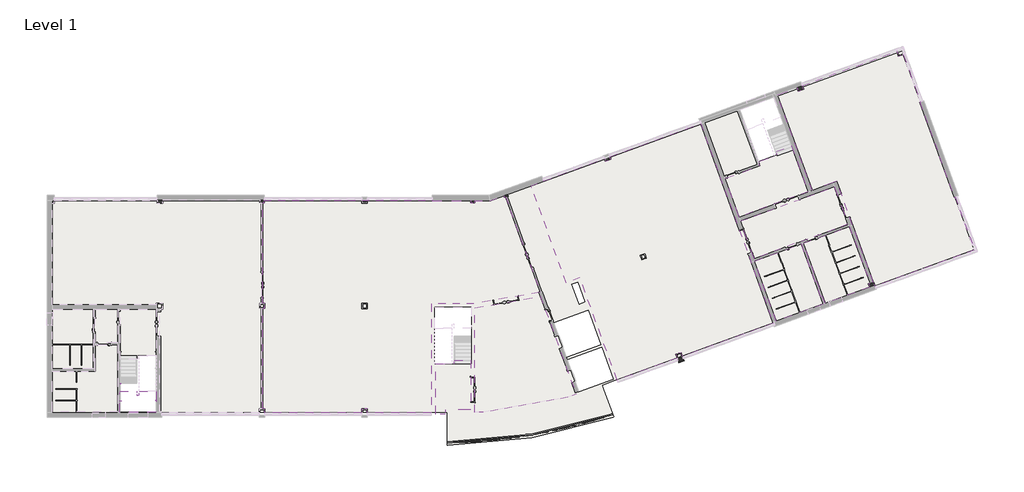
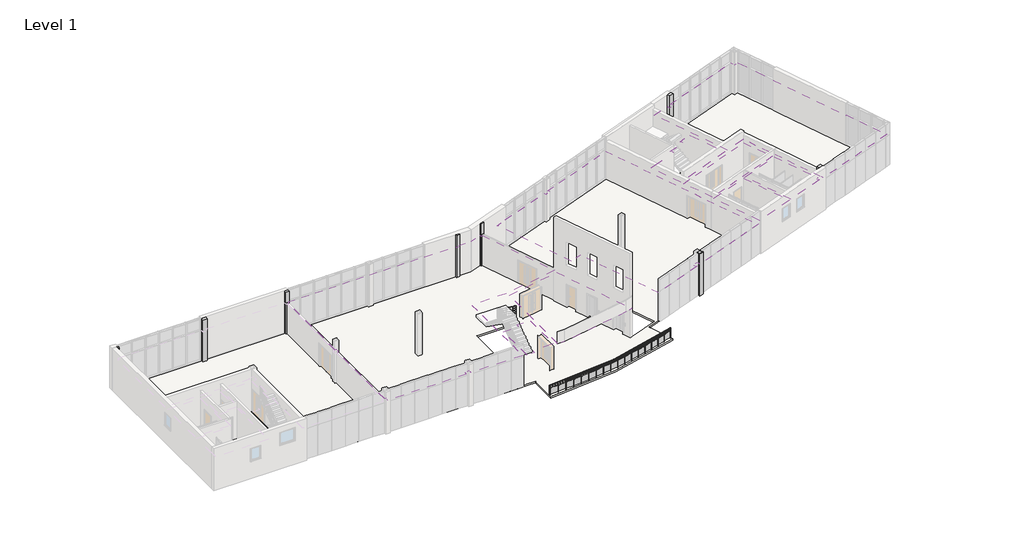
# One storey, part 7 of 12: 9 coverings, 8 columns, 3 proxies, 2 slabs, 1 railing.
"""IFC4 building model written with IfcOpenShell, lengths in millimetres."""

from ifc_helpers import new_model, si_unit, point, frame, frame_2d, origin, place, context, project, spatial, polyline, circle_curve, ellipse_curve, trimmed, segment, composite_curve, outline, extrude, faceted_brep, transform, mapped, element, save
from ifc_brep_helpers import plane_surface, cylinder_surface, revolved_surface, advanced_brep
from components import support_metal_circular_support_metal_circular_016e83f0, cladding_p1_5c8689e0

model = new_model("IFC4")

# Units and contexts
model_context = context("Model", 3, world=origin())
ifc_project = project(units=[si_unit("LENGTHUNIT", "METRE", prefix="MILLI")], contexts=[model_context])

# Site, building, storey
site = spatial("IfcSite", under=ifc_project)
building = spatial("IfcBuilding", under=site)
storey = spatial("IfcBuildingStorey", under=building, Name="Level 1", Elevation=3900.0)

# Proxies
placement = place(None, origin())
support_metal_circular_support_metal_circular_shape = support_metal_circular_support_metal_circular_016e83f0(model_context)
element("IfcBuildingElementProxy", 1, Name="Support - Metal - Circular : Support - Metal - Circular", ObjectType="Support - Metal - Circular : Support - Metal - Circular", at=placement, inside=storey, context=model_context, shape_type="MappedRepresentation", body=[
    mapped(support_metal_circular_support_metal_circular_shape, transform((5322.6000025, 2334.2312733, 6353.300689), x_axis=(0.0, 1.0, 0.0), y_axis=(-1.0, 0.0, 0.0), z_axis=(0.0, 0.0, 1.0))),
])
element("IfcBuildingElementProxy", 2, Name="Support - Metal - Circular : Support - Metal - Circular", ObjectType="Support - Metal - Circular : Support - Metal - Circular", at=placement, inside=storey, context=model_context, shape_type="MappedRepresentation", body=[
    mapped(support_metal_circular_support_metal_circular_shape, transform((5322.6000025, 1100.0, 6732.1192282), x_axis=(0.0, 1.0, 0.0), y_axis=(-1.0, 0.0, 0.0), z_axis=(0.0, 0.0, 1.0))),
])
element("IfcBuildingElementProxy", 3, Name="Support - Metal - Circular : Support - Metal - Circular", ObjectType="Support - Metal - Circular : Support - Metal - Circular", at=placement, inside=storey, context=model_context, shape_type="MappedRepresentation", body=[
    mapped(support_metal_circular_support_metal_circular_shape, transform((7761.8000024, 1150.0, 6732.1192282), x_axis=(0.0, -1.0, 0.0), y_axis=(1.0, 0.0, 0.0), z_axis=(0.0, 0.0, 1.0))),
])

# Columns
cladding_p1_shape = cladding_p1_5c8689e0(model_context)
element("IfcColumn", 4, ObjectType="Cladding : P1", at=placement, inside=storey, context=model_context, shape_type="MappedRepresentation", body=[
    mapped(cladding_p1_shape, transform((45167.1271481, 4034.7258546, 0.0), x_axis=(0.9396926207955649, 0.34202014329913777, 0.0), y_axis=(-0.34202014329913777, 0.9396926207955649, 0.0), z_axis=(0.0, 0.0, 1.0))),
])
element("IfcColumn", 5, ObjectType="Columns_Rectangular : 300x300mm", at=placement, inside=storey, context=model_context, shape_type="SweptSolid", body=[
    extrude(outline(polyline([(562.2000028, 15173.2000005), (433.0000024, 15173.2000005), (433.0000025, 15351.4000013), (562.2000028, 15351.4000013), (562.2000028, 15173.2000005)])), frame((0.0, 0.0, 3900.0), z_axis=(0.0, 0.0, 1.0), x_axis=(1.0, 0.0, 0.0)), (0.0, 0.0, 1.0), 3900.0),
])
element("IfcColumn", 6, ObjectType="Columns_Rectangular : 300x300mm", at=placement, inside=storey, context=model_context, shape_type="Brep", body=[
    faceted_brep([(32610.0635714, 15583.1099494, 7800.0), (32891.9713576, 15685.7159924, 7800.0), (32844.7041738, 15815.5815126, 7800.0), (32562.7963876, 15712.9754696, 7800.0), (32844.7041738, 15815.5815126, 3900.0), (32891.9713576, 15685.7159924, 3900.0), (32807.3990217, 15654.9341795, 3900.0), (32694.6359072, 15613.8917623, 3900.0), (32610.0635714, 15583.1099494, 3900.0), (32562.7963876, 15712.9754696, 3900.0)], [[[0, 1, 2, 3]], [[4, 5, 6, 7, 8, 9]], [[8, 0, 3, 9]], [[1, 0, 8, 7, 6, 5]], [[1, 5, 4, 2]], [[3, 2, 4, 9]]]),
])
element("IfcColumn", 7, ObjectType="Columns_Rectangular : 300x300mm", at=placement, inside=storey, context=model_context, shape_type="SweptSolid", body=[
    extrude(outline(polyline([(30512.2000025, 15213.2000005), (30212.2000025, 15213.2000005), (30212.2000025, 15351.4000004), (30512.2000025, 15351.4000004), (30512.2000025, 15213.2000005)])), frame((0.0, 0.0, 3900.0), z_axis=(0.0, 0.0, 1.0), x_axis=(1.0, 0.0, 0.0)), (0.0, 0.0, 1.0), 3900.0),
])
element("IfcColumn", 8, ObjectType="Columns_Rectangular : 300x300mm", at=placement, inside=storey, context=model_context, shape_type="Brep", body=[
    faceted_brep([(15212.2000024, 15213.2000005, 7800.0), (15512.2000024, 15213.2000005, 7800.0), (15512.2000024, 15413.4000007, 7800.0), (15212.2000024, 15413.4000007, 7800.0), (15512.2000024, 15213.2000005, 3900.0), (15422.2000024, 15213.2000005, 3900.0), (15302.2000024, 15213.2000005, 3900.0), (15212.2000024, 15213.2000005, 3900.0), (15212.2000024, 15413.4000007, 3900.0), (15512.2000024, 15413.4000007, 3900.0)], [[[0, 1, 2, 3]], [[4, 5, 6, 7, 8, 9]], [[7, 0, 3, 8]], [[1, 0, 7, 6, 5, 4]], [[1, 4, 9, 2]], [[3, 2, 9, 8]]]),
])
element("IfcColumn", 9, ObjectType="Columns_Rectangular : 400x400mm", at=placement, inside=storey, context=model_context, shape_type="SweptSolid", body=[
    extrude(outline(polyline([(53911.2024396, 23282.8815641), (53535.3253912, 23146.0735068), (53441.3724579, 23404.2070696), (53817.2495062, 23541.015127), (53911.2024396, 23282.8815641)])), frame((0.0, 0.0, 3900.0), z_axis=(0.0, 0.0, 1.0), x_axis=(1.0, 0.0, 0.0)), (0.0, 0.0, 1.0), 3900.0),
])
element("IfcColumn", 10, ObjectType="Columns_Rectangular : 400x400mm", at=placement, inside=storey, context=model_context, shape_type="SweptSolid", body=[
    extrude(outline(polyline([(8287.2000028, 15163.2000005), (7887.2000028, 15163.2000005), (7887.2000028, 15413.4000008), (8287.2000028, 15413.4000008), (8287.2000028, 15163.2000005)])), frame((0.0, 0.0, 3900.0), z_axis=(0.0, 0.0, 1.0), x_axis=(1.0, 0.0, 0.0)), (0.0, 0.0, 1.0), 3900.0),
])
element("IfcColumn", 11, ObjectType="Columns_Rectangular : 400x400mm", at=placement, inside=storey, context=model_context, shape_type="Brep", body=[
    faceted_brep([(58904.6965317, 9563.3693005, 7800.0), (58528.8194834, 9426.5612432, 7800.0), (58614.3929232, 9191.4501495, 7800.0), (58990.2699716, 9328.2582068, 7800.0), (58614.3929232, 9191.4501495, 3900.0), (58528.8194834, 9426.5612432, 3900.0), (58646.2810605, 9469.3137609, 3900.0), (58881.2042157, 9554.8187967, 3900.0), (58904.6965317, 9563.3693005, 3900.0), (58990.2699716, 9328.2582068, 3900.0)], [[[0, 1, 2, 3]], [[4, 5, 6, 7, 8, 9]], [[1, 0, 8, 7, 6, 5]], [[1, 5, 4, 2]], [[8, 0, 3, 9]], [[3, 2, 4, 9]]]),
])

# Coverings
element("IfcCovering", 12, ObjectType="600x600mm_Grid", at=placement, inside=storey, context=model_context, shape_type="SweptSolid", body=[
    extrude(outline(polyline([(15537.2000025, 7688.2000003), (15537.2000025, 8038.2000003), (15422.2000024, 8038.2000003), (15422.2000024, 15213.2000005), (15512.2000024, 15213.2000005), (15512.2000024, 15376.4000013), (27487.2000028, 15376.4000013), (27487.2000028, 15351.4000005), (30212.2000025, 15351.4000004), (30212.2000025, 15213.2000005), (30512.2000025, 15213.2000005), (30512.2000025, 15351.4000004), (31569.3759506, 15351.4000004), (32562.7963876, 15712.9754696), (32610.0635714, 15583.1099494), (32694.6359072, 15613.8917623), (35158.2741812, 8845.1012344), (30440.3278369, 8013.2000005), (27412.2000031, 8013.2000004), (27412.2000029, 269.9999995), (22862.2000028, 269.9999995), (22862.2000028, 538.199999), (22462.2000028, 538.199999), (22462.2000028, 269.9999995), (15562.2000028, 269.9999995), (15562.2000028, 538.199999), (15422.2000024, 538.199999), (15422.2000024, 7688.2000003), (15537.2000025, 7688.2000003)]), holes=[polyline([(22882.3447354, 7663.2000003), (22882.3447354, 8063.2000003), (22462.2000024, 8063.2000003), (22462.2000024, 7663.2000003), (22882.3447354, 7663.2000003)])]), frame((0.0, 0.0, 6700.0), z_axis=(0.0, 0.0, 1.0), x_axis=(1.0, 0.0, 0.0)), (0.0, 0.0, 1.0), 52.0),
])
element("IfcCovering", 13, ObjectType="600x600mm_Grid", at=placement, inside=storey, context=model_context, shape_type="SweptSolid", body=[
    extrude(outline(polyline([(37985.6557273, 9877.5855238), (37018.9036828, 9525.7165557), (34556.358651, 16291.5034254), (34509.0914672, 16421.3689456), (35405.3665657, 16747.5864031), (35396.8160621, 16771.0787187), (39742.8264311, 18352.8971307), (39807.2836461, 18176.0793824), (40183.2076743, 18312.9045389), (40118.8394836, 18489.7546895), (46579.1582494, 20841.1184239), (51752.691745, 6626.9519648), (45292.3729792, 4275.5882301), (45193.8027741, 4546.4076429), (44817.7897216, 4409.5500841), (44916.3599267, 4138.7306713), (40640.8265039, 2582.5637698), (37985.6557273, 9877.5855238)]), holes=[polyline([(42724.7984316, 11256.6346278), (42605.0913814, 11585.5270451), (42276.1989642, 11465.8199949), (42395.9060144, 11136.9275777), (42724.7984316, 11256.6346278)])]), frame((0.0, 0.0, 6500.0), z_axis=(0.0, 0.0, 1.0), x_axis=(1.0, 0.0, 0.0)), (0.0, 0.0, 1.0), 52.0),
])
element("IfcCovering", 14, ObjectType="600x600mm_Grid", at=placement, inside=storey, context=model_context, shape_type="SweptSolid", body=[
    extrude(outline(polyline([(61005.9307492, 25756.8181916), (62237.203265, 22373.9247568), (62178.0026297, 22352.3774878), (64639.3163891, 15589.9735111), (64698.5170243, 15611.5207802), (66071.7278996, 11838.654908), (59011.8172406, 9269.0575717), (58904.6965317, 9563.3693005), (58881.2042157, 9554.8187967), (56272.4455729, 16722.3242618), (54519.3077353, 16084.2342724), (52040.6193527, 22894.3746339), (53441.3724579, 23404.2070696), (53535.3253912, 23146.0735068), (53911.2024396, 23282.8815641), (53817.0784962, 23541.4849732), (60535.8807344, 25986.9289976), (60664.8223283, 25632.6648797), (61005.9307492, 25756.8181916)])), frame((0.0, 0.0, 6700.0), z_axis=(0.0, 0.0, 1.0), x_axis=(1.0, 0.0, 0.0)), (0.0, 0.0, 1.0), 52.0),
])
element("IfcCovering", 15, ObjectType="600x600mm_Grid", at=placement, inside=storey, context=model_context, shape_type="SweptSolid", body=[
    extrude(outline(polyline([(50396.1862368, 11231.0615383), (49421.3262224, 13909.4674153), (56093.1438296, 16337.8104326), (57068.003844, 13659.4045556), (50396.1862368, 11231.0615383)])), frame((0.0, 0.0, 6700.0), z_axis=(0.0, 0.0, 1.0), x_axis=(1.0, 0.0, 0.0)), (0.0, 0.0, 1.0), 52.0),
])
element("IfcCovering", 16, ObjectType="600x600mm_Grid", at=placement, inside=storey, context=model_context, shape_type="SweptSolid", body=[
    extrude(outline(polyline([(28408.3766929, 146.0000008), (27712.2000028, 146.0000009), (27712.200003, 3763.2000006), (29052.2000029, 3763.2000006), (29052.2000029, 4013.2000006), (30212.2000024, 4013.2000006), (30212.2000023, 470.0000006), (28408.3766929, 470.0000006), (28408.3766929, 146.0000008)])), frame((0.0, 0.0, 6700.0), z_axis=(0.0, 0.0, 1.0), x_axis=(1.0, 0.0, 0.0)), (0.0, 0.0, 1.0), 52.0),
])
element("IfcCovering", 17, ObjectType="600x600mm_Grid", at=placement, inside=storey, context=model_context, shape_type="SweptSolid", body=[
    extrude(outline(composite_curve([segment(polyline([(35172.4630874, 8542.9751379), (37714.7826146, 1558.0096457), (37139.232462, 1348.5265219)]), True, "CONTINUOUS"), segment(trimmed(circle_curve(frame_2d((30685.6603889, 20363.2000005)), 20080.0), [point((37139.232462, 1348.5265219))], [point((31124.6877547, 288.0000022))], False, "CARTESIAN"), True, "CONTINUOUS"), segment(polyline([(31124.6877547, 288.0000022), (30512.2000023, 288.0000022), (30512.2000024, 7721.2450188), (35172.4630874, 8542.9751379)]), True, "CONTINUOUS")], self_intersect=False)), frame((0.0, 0.0, 6700.0), z_axis=(0.0, 0.0, 1.0), x_axis=(1.0, 0.0, 0.0)), (0.0, 0.0, 1.0), 52.0),
])
element("IfcCovering", 18, ObjectType="600x600mm_Grid", at=placement, inside=storey, context=model_context, shape_type="SweptSolid", body=[
    extrude(outline(polyline([(48319.963718, 16935.4360269), (50804.9943671, 17839.9132141), (50697.0762506, 18136.4158024), (52050.0788572, 18628.8684779), (51964.5738214, 18863.791633), (53045.2203355, 19257.1147979), (54237.3999491, 15981.6282294), (49318.7201794, 14191.3752015), (48319.963718, 16935.4360269)])), frame((0.0, 0.0, 6700.0), z_axis=(0.0, 0.0, 1.0), x_axis=(1.0, 0.0, 0.0)), (0.0, 0.0, 1.0), 52.0),
])
element("IfcCovering", 19, ObjectType="Plain", at=placement, inside=storey, context=model_context, shape_type="SweptSolid", body=[
    extrude(outline(polyline([(58646.2810605, 9469.3137609), (58528.8194834, 9426.5612432), (58614.3929232, 9191.4501495), (55449.5081762, 8039.5263068), (53888.7334543, 12327.7196125), (57171.0797785, 13522.3959729), (58646.2810605, 9469.3137609)])), frame((0.0, 0.0, 6700.0), z_axis=(0.0, 0.0, 1.0), x_axis=(1.0, 0.0, 0.0)), (0.0, 0.0, 1.0), 57.0),
])
element("IfcCovering", 20, ObjectType="Plain", at=placement, inside=storey, context=model_context, shape_type="SweptSolid", body=[
    extrude(outline(polyline([(55295.3985864, 7983.4350033), (51966.0676312, 6771.6576357), (50405.2929092, 11059.8509413), (53734.6238645, 12271.628309), (55295.3985864, 7983.4350033)])), frame((0.0, 0.0, 6700.0), z_axis=(0.0, 0.0, 1.0), x_axis=(1.0, 0.0, 0.0)), (0.0, 0.0, 1.0), 57.0),
])

# Railing
element("IfcRailing", 21, ObjectType="Glass_Panel-Bottom_Fill", at=placement, inside=storey, context=model_context, shape_type="SolidModel", body=[
    advanced_brep(
    [(40308.8689844, 181.3840931, 4800.0), (28548.6661194, -1809.3617636, 4800.0), (28549.739034, -1889.3545686, 4800.0), (40334.1834987, 105.4948622, 4800.0)],
    [
        (0, 1, circle_curve(frame((28028.1685328, 36997.1374158, 4800.0), z_axis=(0.0, 0.0, -1.0), x_axis=(0.013411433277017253, -0.9999100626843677, 0.0)), 38809.9896457)),
        (1, 2, ellipse_curve(frame((28549.2025767, -1849.3581661, 4800.0), z_axis=(0.9999100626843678, 0.013411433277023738, 0.0), x_axis=(0.013411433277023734, -0.9999100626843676, 0.0)), 40.0, 30.0)),
        (2, 3, circle_curve(frame((28028.1685328, 36997.1374158, 4800.0), z_axis=(0.0, 0.0, 1.0), x_axis=(0.013411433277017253, -0.9999100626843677, 0.0)), 38889.9896457)),
        (3, 0, ellipse_curve(frame((40321.5262416, 143.4394777, 4800.0), z_axis=(-0.9486153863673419, -0.3164314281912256, 0.0), x_axis=(0.3164314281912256, -0.9486153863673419, 0.0)), 40.0, 30.0)),
        (2, 1, ellipse_curve(frame((28549.2025767, -1849.3581661, 4800.0), z_axis=(0.9999100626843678, 0.013411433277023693, 0.0), x_axis=(0.013411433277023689, -0.9999100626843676, 0.0)), 40.0, 30.0)),
        (0, 3, ellipse_curve(frame((40321.5262416, 143.4394777, 4800.0), z_axis=(-0.9486153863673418, -0.31643142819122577, 0.0), x_axis=(0.31643142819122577, -0.9486153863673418, 0.0)), 40.0, 30.0)),
    ],
    [
        revolved_surface(trimmed(ellipse_curve(frame((28549.2025767, -1849.3581661, 4800.0), z_axis=(-0.9999100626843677, -0.013411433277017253, 0.0), x_axis=(0.013411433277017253, -0.9999100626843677, 0.0)), 40.0, 30.0), [point((28549.739034, -1889.3545686, 4800.0))], [point((28548.6661194, -1809.3617636, 4800.0))], True, "CARTESIAN"), (28028.1685328, 36997.1374158, 4800.0), (0.0, 0.0, 1.0)),
        revolved_surface(trimmed(ellipse_curve(frame((28549.2025767, -1849.3581661, 4800.0), z_axis=(-0.9999100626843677, -0.013411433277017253, 0.0), x_axis=(0.013411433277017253, -0.9999100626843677, 0.0)), 40.0, 30.0), [point((28548.6661194, -1809.3617636, 4800.0))], [point((28549.739034, -1889.3545686, 4800.0))], True, "CARTESIAN"), (28028.1685328, 36997.1374158, 4800.0), (0.0, 0.0, 1.0)),
        plane_surface(frame((28549.2025767, -1849.3581661, 4800.0), z_axis=(-0.9999100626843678, -0.013411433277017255, 0.0), x_axis=(0.013411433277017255, -0.9999100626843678, 0.0))),
        plane_surface(frame((40321.5262416, 143.4394777, 4800.0), z_axis=(0.9486153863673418, 0.3164314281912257, 0.0), x_axis=(0.3164314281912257, -0.9486153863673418, 0.0))),
    ],
    [
        (0, [[1, 2, 3, 4]]),
        (1, [[-3, 5, -1, 6]]),
        (2, [[-5, -2]]),
        (3, [[-4, -6]]),
    ],
),
    extrude(outline(composite_curve([segment(trimmed(circle_curve(frame_2d((28028.1685328, 36997.1374158)), 38859.3804108), [point((40324.4977748, 134.5312533))], [point((28549.3285203, -1858.7480867))], False, "CARTESIAN"), True, "CONTINUOUS"), segment(polyline([(28549.3285203, -1858.7480867), (28549.0602917, -1838.7498855)]), True, "CONTINUOUS"), segment(trimmed(circle_curve(frame_2d((28028.1685328, 36997.1374158)), 38839.3804108), [point((28549.0602917, -1838.7498855))], [point((40318.1691462, 153.5035611))], True, "CARTESIAN"), True, "CONTINUOUS"), segment(polyline([(40318.1691462, 153.5035611), (40324.4977748, 134.5312533)]), True, "CONTINUOUS")], self_intersect=False)), frame((0.0, 0.0, 4680.0), z_axis=(0.0, 0.0, 1.0), x_axis=(1.0, 0.0, 0.0)), (0.0, 0.0, 1.0), 20.0),
    extrude(outline(composite_curve([segment(trimmed(circle_curve(frame_2d((28028.1685328, 36997.1374158)), 38859.3804108), [point((40324.4977748, 134.5312533))], [point((28549.3285203, -1858.7480867))], False, "CARTESIAN"), True, "CONTINUOUS"), segment(polyline([(28549.3285203, -1858.7480867), (28549.0602917, -1838.7498855)]), True, "CONTINUOUS"), segment(trimmed(circle_curve(frame_2d((28028.1685328, 36997.1374158)), 38839.3804108), [point((28549.0602917, -1838.7498855))], [point((40318.1691462, 153.5035611))], True, "CARTESIAN"), True, "CONTINUOUS"), segment(polyline([(40318.1691462, 153.5035611), (40324.4977748, 134.5312533)]), True, "CONTINUOUS")], self_intersect=False)), frame((0.0, 0.0, 4580.0), z_axis=(0.0, 0.0, 1.0), x_axis=(1.0, 0.0, 0.0)), (0.0, 0.0, 1.0), 20.0),
    extrude(outline(polyline([(40266.4314409, 152.0906486), (40277.8190754, 155.8750613), (40293.5874619, 108.4265841), (40282.1998274, 104.6421714), (40266.4314409, 152.0906486)])), frame((0.0, 0.0, 3900.0), z_axis=(0.0, 0.0, 1.0), x_axis=(1.0, 0.0, 0.0)), (0.0, 0.0, 1.0), 869.8465326),
    extrude(outline(polyline([(39614.7863131, -87.6460581), (40281.0268462, 127.1178871), (40282.5608743, 122.3590262), (39616.3203413, -92.404919), (39614.7863131, -87.6460581)])), frame((0.0, 0.0, 4000.0), z_axis=(0.0, 0.0, 1.0), x_axis=(1.0, 0.0, 0.0)), (0.0, 0.0, 1.0), 580.0),
    extrude(outline(polyline([(39600.5954794, -62.4292958), (39612.0494504, -58.8506721), (39626.9603824, -106.5755515), (39615.5064114, -110.1541752), (39600.5954794, -62.4292958)])), frame((0.0, 0.0, 3900.0), z_axis=(0.0, 0.0, 1.0), x_axis=(1.0, 0.0, 0.0)), (0.0, 0.0, 1.0), 869.8465326),
    extrude(outline(polyline([(38944.7367146, -290.3861815), (39614.7385729, -87.6609738), (39616.1866101, -92.4467013), (38946.1847518, -295.1719091), (38944.7367146, -290.3861815)])), frame((0.0, 0.0, 4000.0), z_axis=(0.0, 0.0, 1.0), x_axis=(1.0, 0.0, 0.0)), (0.0, 0.0, 1.0), 580.0),
    extrude(outline(polyline([(38931.0025232, -264.9178317), (38942.5191122, -261.5461589), (38956.5677488, -309.5319464), (38945.0511598, -312.9036192), (38931.0025232, -264.9178317)])), frame((0.0, 0.0, 3900.0), z_axis=(0.0, 0.0, 1.0), x_axis=(1.0, 0.0, 0.0)), (0.0, 0.0, 1.0), 869.8465326),
    extrude(outline(polyline([(38271.1430463, -481.0208902), (38944.6887135, -290.4002347), (38946.0502896, -295.2112752), (38272.5046224, -485.8319306), (38271.1430463, -481.0208902)])), frame((0.0, 0.0, 4000.0), z_axis=(0.0, 0.0, 1.0), x_axis=(1.0, 0.0, 0.0)), (0.0, 0.0, 1.0), 580.0),
    extrude(outline(polyline([(38257.8699559, -455.309221), (38269.445424, -452.1455937), (38282.6272045, -500.3767109), (38271.0517364, -503.5403382), (38257.8699559, -455.309221)])), frame((0.0, 0.0, 3900.0), z_axis=(0.0, 0.0, 1.0), x_axis=(1.0, 0.0, 0.0)), (0.0, 0.0, 1.0), 869.8465326),
    extrude(outline(polyline([(37594.2239908, -659.4882942), (38271.0947997, -481.0340762), (38272.3694727, -485.8688677), (37595.4986637, -664.3230857), (37594.2239908, -659.4882942)])), frame((0.0, 0.0, 4000.0), z_axis=(0.0, 0.0, 1.0), x_axis=(1.0, 0.0, 0.0)), (0.0, 0.0, 1.0), 580.0),
    extrude(outline(polyline([(37581.4163106, -633.5416531), (37593.0468998, -630.5870983), (37605.3575445, -679.0478869), (37593.7269553, -682.0024416), (37581.4163106, -633.5416531)])), frame((0.0, 0.0, 3900.0), z_axis=(0.0, 0.0, 1.0), x_axis=(1.0, 0.0, 0.0)), (0.0, 0.0, 1.0), 869.8465326),
    extrude(outline(polyline([(36914.1993101, -825.7304543), (37594.1755144, -659.5006088), (37595.3628705, -664.3575817), (36915.3866661, -830.5874272), (36914.1993101, -825.7304543)])), frame((0.0, 0.0, 4000.0), z_axis=(0.0, 0.0, 1.0), x_axis=(1.0, 0.0, 0.0)), (0.0, 0.0, 1.0), 580.0),
    extrude(outline(polyline([(36901.8611981, -799.5572647), (36913.5431326, -796.8127417), (36924.9786449, -845.4874688), (36913.2967104, -848.2319918), (36901.8611981, -799.5572647)])), frame((0.0, 0.0, 3900.0), z_axis=(0.0, 0.0, 1.0), x_axis=(1.0, 0.0, 0.0)), (0.0, 0.0, 1.0), 869.8465326),
    extrude(outline(polyline([(36231.2897746, -979.6933996), (36914.1506197, -825.7418934), (36915.2502733, -830.6194709), (36232.3894282, -984.5709771), (36231.2897746, -979.6933996)])), frame((0.0, 0.0, 4000.0), z_axis=(0.0, 0.0, 1.0), x_axis=(1.0, 0.0, 0.0)), (0.0, 0.0, 1.0), 580.0),
    extrude(outline(polyline([(36219.4252364, -953.3021588), (36231.1547236, -950.7685586), (36241.7113911, -999.6414219), (36229.9819039, -1002.1750221), (36219.4252364, -953.3021588)])), frame((0.0, 0.0, 3900.0), z_axis=(0.0, 0.0, 1.0), x_axis=(1.0, 0.0, 0.0)), (0.0, 0.0, 1.0), 869.8465326),
    extrude(outline(polyline([(35545.7170914, -1121.3271461), (36231.2408861, -979.7039597), (36232.2524803, -984.6005582), (35546.7286856, -1126.2237447), (35545.7170914, -1121.3271461)])), frame((0.0, 0.0, 4000.0), z_axis=(0.0, 0.0, 1.0), x_axis=(1.0, 0.0, 0.0)), (0.0, 0.0, 1.0), 580.0),
    extrude(outline(polyline([(35534.3299789, -1094.726422), (35546.1032108, -1092.4045671), (35555.7776061, -1141.4597001), (35544.0043741, -1143.781555), (35534.3299789, -1094.726422)])), frame((0.0, 0.0, 3900.0), z_axis=(0.0, 0.0, 1.0), x_axis=(1.0, 0.0, 0.0)), (0.0, 0.0, 1.0), 869.8465326),
    extrude(outline(polyline([(34857.703832, -1250.5857124), (35545.6680206, -1121.3368236), (35546.5912269, -1126.2508536), (34858.6270383, -1255.4997423), (34857.703832, -1250.5857124)])), frame((0.0, 0.0, 4000.0), z_axis=(0.0, 0.0, 1.0), x_axis=(1.0, 0.0, 0.0)), (0.0, 0.0, 1.0), 580.0),
    extrude(outline(polyline([(34846.7978419, -1223.7841408), (34858.6109963, -1221.674785), (34867.3999787, -1270.8962619), (34855.5868242, -1273.0056177), (34846.7978419, -1223.7841408)])), frame((0.0, 0.0, 3900.0), z_axis=(0.0, 0.0, 1.0), x_axis=(1.0, 0.0, 0.0)), (0.0, 0.0, 1.0), 869.8465326),
    extrude(outline(polyline([(34167.4733602, -1367.4271344), (34857.6545947, -1250.5945042), (34858.4891135, -1255.5243701), (34168.307879, -1372.3570004), (34167.4733602, -1367.4271344)])), frame((0.0, 0.0, 4000.0), z_axis=(0.0, 0.0, 1.0), x_axis=(1.0, 0.0, 0.0)), (0.0, 0.0, 1.0), 580.0),
    extrude(outline(polyline([(34157.0520331, -1340.4334166), (34168.901275, -1338.5372447), (34176.8019911, -1387.9090857), (34164.9527492, -1389.8052576), (34157.0520331, -1340.4334166)])), frame((0.0, 0.0, 3900.0), z_axis=(0.0, 0.0, 1.0), x_axis=(1.0, 0.0, 0.0)), (0.0, 0.0, 1.0), 869.8465326),
    extrude(outline(polyline([(33475.2497597, -1471.8134797), (34167.4239725, -1367.4350377), (34168.1695328, -1372.3791392), (33475.99532, -1476.7575812), (33475.2497597, -1471.8134797)])), frame((0.0, 0.0, 4000.0), z_axis=(0.0, 0.0, 1.0), x_axis=(1.0, 0.0, 0.0)), (0.0, 0.0, 1.0), 580.0),
    extrude(outline(polyline([(33465.3164791, -1444.6363791), (33477.1979614, -1442.9540068), (33484.2078462, -1492.4601833), (33472.3263639, -1494.1425556), (33465.3164791, -1444.6363791)])), frame((0.0, 0.0, 3900.0), z_axis=(0.0, 0.0, 1.0), x_axis=(1.0, 0.0, 0.0)), (0.0, 0.0, 1.0), 869.8465326),
    extrude(outline(polyline([(32781.2577613, -1563.7108591), (33475.2002376, -1471.8204918), (33475.8565974, -1476.7772238), (32781.9141211, -1568.667591), (32781.2577613, -1563.7108591)])), frame((0.0, 0.0, 4000.0), z_axis=(0.0, 0.0, 1.0), x_axis=(1.0, 0.0, 0.0)), (0.0, 0.0, 1.0), 580.0),
    extrude(outline(polyline([(32771.8157519, -1536.3591988), (32783.7256175, -1534.8911722), (32789.8423953, -1584.515612), (32777.9325297, -1585.9836387), (32771.8157519, -1536.3591988)])), frame((0.0, 0.0, 3900.0), z_axis=(0.0, 0.0, 1.0), x_axis=(1.0, 0.0, 0.0)), (0.0, 0.0, 1.0), 869.8465326),
    extrude(outline(polyline([(32085.72267, -1643.089438), (32781.208121, -1563.7169778), (32781.7750671, -1568.684731), (32086.2896161, -1648.0571912), (32085.72267, -1643.089438)])), frame((0.0, 0.0, 4000.0), z_axis=(0.0, 0.0, 1.0), x_axis=(1.0, 0.0, 0.0)), (0.0, 0.0, 1.0), 580.0),
    extrude(outline(polyline([(32076.7749971, -1615.5720979), (32088.7093793, -1614.3188935), (32093.9310643, -1664.045486), (32081.9966821, -1665.2986904), (32076.7749971, -1615.5720979)])), frame((0.0, 0.0, 3900.0), z_axis=(0.0, 0.0, 1.0), x_axis=(1.0, 0.0, 0.0)), (0.0, 0.0, 1.0), 869.8465326),
    extrude(outline(polyline([(31388.8702915, -1709.9234463), (32085.6729274, -1643.0946614), (32086.1502759, -1648.0718231), (31389.3476399, -1714.900608), (31388.8702915, -1709.9234463)])), frame((0.0, 0.0, 4000.0), z_axis=(0.0, 0.0, 1.0), x_axis=(1.0, 0.0, 0.0)), (0.0, 0.0, 1.0), 580.0),
    extrude(outline(polyline([(31380.4198601, -1682.2493597), (31392.3748844, -1681.2113844), (31396.6997813, -1731.0239859), (31384.7447569, -1732.0619612), (31380.4198601, -1682.2493597)])), frame((0.0, 0.0, 3900.0), z_axis=(0.0, 0.0, 1.0), x_axis=(1.0, 0.0, 0.0)), (0.0, 0.0, 1.0), 869.8465326),
    extrude(outline(polyline([(30690.9268593, -1764.1911861), (31388.8204629, -1709.9277726), (31389.2080587, -1714.9127269), (30691.3144551, -1769.1761404), (30690.9268593, -1764.1911861)])), frame((0.0, 0.0, 4000.0), z_axis=(0.0, 0.0, 1.0), x_axis=(1.0, 0.0, 0.0)), (0.0, 0.0, 1.0), 580.0),
    extrude(outline(polyline([(30682.9764127, -1736.3693375), (30694.948198, -1735.5469284), (30698.3749028, -1785.4293671), (30686.4031175, -1786.2517763), (30682.9764127, -1736.3693375)])), frame((0.0, 0.0, 3900.0), z_axis=(0.0, 0.0, 1.0), x_axis=(1.0, 0.0, 0.0)), (0.0, 0.0, 1.0), 869.8465326),
    extrude(outline(polyline([(29992.1189611, -1805.8750395), (30690.8769608, -1764.1946139), (30691.1746782, -1769.1857425), (29992.4166785, -1810.8661681), (29992.1189611, -1805.8750395)])), frame((0.0, 0.0, 4000.0), z_axis=(0.0, 0.0, 1.0), x_axis=(1.0, 0.0, 0.0)), (0.0, 0.0, 1.0), 580.0),
    extrude(outline(polyline([(29984.6710806, -1777.9144613), (29996.6557402, -1777.3078852), (29999.1831403, -1827.2439669), (29987.1984807, -1827.8505429), (29984.6710806, -1777.9144613)])), frame((0.0, 0.0, 3900.0), z_axis=(0.0, 0.0, 1.0), x_axis=(1.0, 0.0, 0.0)), (0.0, 0.0, 1.0), 869.8465326),
    extrude(outline(polyline([(29292.6734654, -1834.9614737), (29992.069009, -1805.8775677), (29992.2767512, -1810.8732502), (29292.8812076, -1839.9571562), (29292.6734654, -1834.9614737)])), frame((0.0, 0.0, 4000.0), z_axis=(0.0, 0.0, 1.0), x_axis=(1.0, 0.0, 0.0)), (0.0, 0.0, 1.0), 580.0),
    extrude(outline(polyline([(29285.7305689, -1806.8712433), (29297.7242119, -1806.4806973), (29299.3514869, -1856.45421), (29287.3578438, -1856.844756), (29285.7305689, -1806.8712433)])), frame((0.0, 0.0, 3900.0), z_axis=(0.0, 0.0, 1.0), x_axis=(1.0, 0.0, 0.0)), (0.0, 0.0, 1.0), 869.8465326),
    extrude(outline(polyline([(28592.8174475, -1851.4410459), (29292.6234759, -1834.9631015), (29292.7411755, -1839.961716), (28592.9351471, -1856.4396604), (28592.8174475, -1851.4410459)])), frame((0.0, 0.0, 4000.0), z_axis=(0.0, 0.0, 1.0), x_axis=(1.0, 0.0, 0.0)), (0.0, 0.0, 1.0), 580.0),
    extrude(outline(polyline([(28586.3817889, -1823.2302827), (28598.3805217, -1823.0558936), (28599.1071432, -1873.0506135), (28587.1084105, -1873.2250027), (28586.3817889, -1823.2302827)])), frame((0.0, 0.0, 3900.0), z_axis=(0.0, 0.0, 1.0), x_axis=(1.0, 0.0, 0.0)), (0.0, 0.0, 1.0), 869.8465326),
    extrude(outline(polyline([(40305.8348586, 165.2020895), (40317.2184387, 168.9986806), (40333.0375683, 121.5670968), (40321.6539882, 117.7705057), (40305.8348586, 165.2020895)])), frame((0.0, 0.0, 3900.0), z_axis=(0.0, 0.0, 1.0), x_axis=(1.0, 0.0, 0.0)), (0.0, 0.0, 1.0), 869.8465326),
    extrude(outline(polyline([(28544.8581965, -1823.8051549), (28556.8571089, -1823.6436), (28557.5302544, -1873.6390686), (28545.5313419, -1873.8006235), (28544.8581965, -1823.8051549)])), frame((0.0, 0.0, 3900.0), z_axis=(0.0, 0.0, 1.0), x_axis=(1.0, 0.0, 0.0)), (0.0, 0.0, 1.0), 869.8465326),
])

# Slabs
element("IfcSlab", 22, ObjectType="200mm_Thickness", at=placement, inside=storey, context=model_context, shape_type="SolidModel", body=[
    faceted_brep([(6447.2000025, 1800.0, 5849.0), (5247.2000025, 1800.0, 5849.0), (5247.2000025, 1572.7280846, 5849.0), (5247.2000025, 300.0000001, 5849.0), (7837.2000024, 300.0000001, 5849.0), (7837.2000024, 1777.2719153, 5849.0), (7837.2000024, 1800.0, 5849.0), (6637.2000026, 1800.0, 5849.0), (6637.2000026, 1777.2719153, 5849.0), (6637.2000026, 1500.0, 5849.0), (6447.2000025, 1500.0, 5849.0), (6447.2000025, 1572.7280846, 5849.0), (6447.2000025, 1800.0, 5487.8435509), (6447.2000025, 1800.0, 5671.7272727), (6447.2000025, 1500.0, 5649.0), (6447.2000025, 1572.7280846, 5649.0), (5247.2000025, 1800.0, 5671.7272727), (5247.2000025, 1800.0, 5487.8435509), (5247.2000025, 1572.7280846, 5649.0), (5247.2000025, 300.0000001, 5649.0), (6637.2000026, 1800.0, 5665.1162782), (6637.2000026, 1777.2719153, 5649.0), (6637.2000026, 1500.0, 5649.0), (7837.2000024, 1777.2719153, 5649.0), (7837.2000024, 300.0000001, 5649.0), (7837.2000024, 1800.0, 5665.1162782)], [[[0, 1, 2, 3, 4, 5, 6, 7, 8, 9, 10, 11]], [[12, 13, 0, 11, 10, 14, 15]], [[1, 16, 17, 18, 19, 3, 2]], [[7, 20, 21, 22, 9, 8]], [[18, 15, 14, 22, 21, 23, 24, 19]], [[15, 18, 17, 12]], [[23, 21, 20, 25]], [[1, 0, 13, 12, 17, 16]], [[4, 3, 19, 24]], [[4, 24, 23, 25, 6, 5]], [[7, 6, 25, 20]], [[10, 9, 22, 14]]]),
    extrude(outline(polyline([(6447.2000025, 1800.0), (6447.2000025, 1500.0), (6637.2000026, 1500.0), (6637.2000026, 1800.0), (7837.2000024, 1800.0), (7837.2000024, 300.0000001), (5247.2000025, 300.0000001), (5247.2000025, 1800.0), (6447.2000025, 1800.0)])), frame((0.0, 0.0, 5849.0), z_axis=(0.0, 0.0, 1.0), x_axis=(1.0, 0.0, 0.0)), (0.0, 0.0, 1.0), 1.0),
])
element("IfcSlab", 23, ObjectType="Generic 150mm", at=placement, inside=storey, context=model_context, shape_type="AdvancedBrep", body=[
    advanced_brep(
    [(39568.1602739, 2232.5839466, 3760.0), (39591.4176437, 2168.6848483, 3760.0), (39666.6620752, 1961.9524718, 3760.0), (40395.5382999, -40.6184973, 3760.0), (40371.8118375, -48.5324498, 3760.0), (28564.8790145, -2047.1892767, 3760.0), (28539.8766926, -2047.5251299, 3760.0), (28539.8766928, 158.0000005, 3760.0), (28539.8766928, 288.0000005, 3760.0), (27712.2000029, 288.0000005, 3760.0), (27412.2000029, 288.0000005, 3760.0), (408.0, 288.0, 3760.0), (408.0000025, 15318.4000008, 3760.0), (31575.1947409, 15318.4000004, 3760.0), (49365.7516644, 21794.2000413, 3760.0), (50697.0762506, 18136.4158024, 3760.0), (52050.0788572, 18628.8684779, 3760.0), (51964.5738214, 18863.791633, 3760.0), (53106.6762329, 19279.4829152, 3760.0), (51860.831131, 22702.4142012, 3760.0), (60882.0231289, 25986.1470129, 3760.0), (66023.0228145, 11861.366462, 3760.0), (40627.8297383, 2618.2720897, 3760.0), (40392.9065831, 2532.7670539, 3760.0), (38570.0121341, 7541.1283909, 3760.0), (36126.8113195, 6651.8760181, 3760.0), (37017.2607629, 4205.3862799, 3760.0), (39460.4615772, 5094.6386527, 3760.0), (39528.8656059, 4906.7001285, 3760.0), (37085.6647918, 4017.4477559, 3760.0), (37905.7561806, 1764.2651831, 3760.0), (40348.9569947, 2653.5175556, 3760.0), (38349.2678229, 8147.6184016, 3760.0), (37836.2376078, 9557.1573328, 3760.0), (37422.7728548, 9406.6684697, 3760.0), (37935.8030697, 7997.1295385, 3760.0), (29052.2000029, 4013.2000006, 3760.0), (30252.200003, 4013.2000006, 3760.0), (30252.200003, 7713.2000005, 3760.0), (30252.200003, 7757.8000004, 3760.0), (27712.2000031, 7757.8000004, 3760.0), (27667.6000031, 7757.8000004, 3760.0), (27667.6000031, 3763.2000006, 3760.0), (27712.200003, 3763.2000006, 3760.0), (29052.2000029, 3763.2000006, 3760.0), (5259.2000024, 4050.0, 3760.0), (5259.2000024, 345.4000001, 3760.0), (7841.8000023, 345.4000001, 3760.0), (7841.8000023, 4300.0, 3760.0), (6497.2000024, 4300.0, 3760.0), (6497.2000024, 4050.0, 3760.0), (40395.5382999, -40.6184973, 3900.0), (39666.6620752, 1961.9524718, 3900.0), (39591.4176437, 2168.6848483, 3900.0), (39568.1602739, 2232.5839466, 3900.0), (40392.9065831, 2532.7670539, 3900.0), (40627.8297383, 2618.2720897, 3900.0), (66023.0228145, 11861.366462, 3900.0), (60882.0231289, 25986.1470129, 3900.0), (51860.831131, 22702.4142012, 3900.0), (53106.6762329, 19279.4829152, 3900.0), (51964.5738214, 18863.791633, 3900.0), (52050.0788572, 18628.8684779, 3900.0), (50697.0762506, 18136.4158024, 3900.0), (49365.7516644, 21794.2000413, 3900.0), (31575.1947409, 15318.4000004, 3900.0), (408.0000025, 15318.4000008, 3900.0), (408.0, 288.0, 3900.0), (27412.2000029, 288.0000005, 3900.0), (27712.2000029, 288.0000005, 3900.0), (28539.8766928, 288.0000005, 3900.0), (28539.8766928, 158.0000005, 3900.0), (28539.8766926, -2047.5251299, 3900.0), (28564.8790145, -2047.1892767, 3900.0), (40371.8118375, -48.5324498, 3900.0), (36126.8113195, 6651.8760181, 3900.0), (38570.0121341, 7541.1283909, 3900.0), (39460.4615772, 5094.6386527, 3900.0), (37017.2607629, 4205.3862799, 3900.0), (37085.6647918, 4017.4477559, 3900.0), (39528.8656059, 4906.7001285, 3900.0), (40348.9569947, 2653.5175556, 3900.0), (37905.7561806, 1764.2651831, 3900.0), (30252.200003, 4013.2000006, 3900.0), (29052.2000029, 4013.2000006, 3900.0), (29052.2000029, 3763.2000006, 3900.0), (27712.200003, 3763.2000006, 3900.0), (27667.6000031, 3763.2000006, 3900.0), (27667.6000031, 7757.8000004, 3900.0), (27712.2000031, 7757.8000004, 3900.0), (30252.200003, 7757.8000004, 3900.0), (30252.200003, 7713.2000005, 3900.0), (5259.2000024, 345.4000001, 3900.0), (5259.2000024, 4050.0, 3900.0), (6497.2000024, 4050.0, 3900.0), (6497.2000024, 4300.0, 3900.0), (7841.8000023, 4300.0, 3900.0), (7841.8000023, 345.4000001, 3900.0), (37836.2376078, 9557.1573328, 3900.0), (38349.2678229, 8147.6184016, 3900.0), (37935.8030697, 7997.1295385, 3900.0), (37422.7728548, 9406.6684697, 3900.0)],
    [
        (0, 1),
        (1, 2),
        (2, 3),
        (3, 4, circle_curve(frame((28027.924496, 36998.4991929, 3760.0), z_axis=(0.0, 0.0, -1.0), x_axis=(1.0, 0.0, 0.0)), 39049.3804108)),
        (4, 5, circle_curve(frame((28027.924496, 36998.4991929, 3760.0), z_axis=(0.0, 0.0, -1.0), x_axis=(1.0, 0.0, 0.0)), 39049.3803822)),
        (5, 6, circle_curve(frame((28027.924496, 36998.4991929, 3760.0), z_axis=(0.0, 0.0, -1.0), x_axis=(1.0, 0.0, 0.0)), 39049.380382)),
        (6, 7),
        (7, 8),
        (8, 9),
        (9, 10),
        (10, 11),
        (11, 12),
        (12, 13),
        (13, 14),
        (14, 15),
        (15, 16),
        (16, 17),
        (17, 18),
        (18, 19),
        (19, 20),
        (20, 21),
        (21, 22),
        (22, 23),
        (23, 0),
        (24, 25),
        (25, 26),
        (26, 27),
        (27, 24),
        (28, 29),
        (29, 30),
        (30, 31),
        (31, 28),
        (32, 33),
        (33, 34),
        (34, 35),
        (35, 32),
        (36, 37),
        (37, 38),
        (38, 39),
        (39, 40),
        (40, 41),
        (41, 42),
        (42, 43),
        (43, 44),
        (44, 36),
        (45, 46),
        (46, 47),
        (47, 48),
        (48, 49),
        (49, 50),
        (50, 45),
        (51, 52),
        (52, 53),
        (53, 54),
        (54, 55),
        (55, 56),
        (56, 57),
        (57, 58),
        (58, 59),
        (59, 60),
        (60, 61),
        (61, 62),
        (62, 63),
        (63, 64),
        (64, 65),
        (65, 66),
        (66, 67),
        (67, 68),
        (68, 69),
        (69, 70),
        (70, 71),
        (71, 72),
        (72, 73, circle_curve(frame((28027.924496, 36998.4991929, 3900.0), z_axis=(0.0, 0.0, 1.0), x_axis=(1.0, 0.0, 0.0)), 39049.3804108)),
        (73, 74, circle_curve(frame((28027.924496, 36998.4991929, 3900.0), z_axis=(0.0, 0.0, 1.0), x_axis=(1.0, 0.0, 0.0)), 39049.380382)),
        (74, 51, circle_curve(frame((28027.924496, 36998.4991929, 3900.0), z_axis=(0.0, 0.0, 1.0), x_axis=(1.0, 0.0, 0.0)), 39049.3803822)),
        (75, 76),
        (76, 77),
        (77, 78),
        (78, 75),
        (79, 80),
        (80, 81),
        (81, 82),
        (82, 79),
        (83, 84),
        (84, 85),
        (85, 86),
        (86, 87),
        (87, 88),
        (88, 89),
        (89, 90),
        (90, 91),
        (91, 83),
        (92, 93),
        (93, 94),
        (94, 95),
        (95, 96),
        (96, 97),
        (97, 92),
        (98, 99),
        (99, 100),
        (100, 101),
        (101, 98),
        (0, 54),
        (51, 3),
        (72, 6),
        (70, 8),
        (24, 76),
        (75, 25),
        (78, 26),
        (77, 27),
        (28, 80),
        (79, 29),
        (82, 30),
        (81, 31),
        (32, 99),
        (98, 33),
        (101, 34),
        (100, 35),
        (67, 11),
        (66, 12),
        (65, 13),
        (64, 14),
        (58, 20),
        (19, 59),
        (57, 21),
        (36, 84),
        (83, 37),
        (90, 39),
        (88, 41),
        (87, 42),
        (85, 44),
        (92, 46),
        (45, 93),
        (97, 47),
        (96, 48),
        (95, 49),
        (15, 63),
        (62, 16),
        (18, 60),
        (94, 50),
        (61, 17),
    ],
    [
        plane_surface(frame((67077.3049068, 36998.4991929, 3760.0), z_axis=(0.0, 0.0, -1.0), x_axis=(0.0, -1.0, 0.0))),
        plane_surface(frame((67077.3049068, 36998.4991929, 3900.0), z_axis=(0.0, 0.0, 1.0), x_axis=(0.0, 1.0, 0.0))),
        plane_surface(frame((39568.1602739, 2232.5839466, 3760.0), z_axis=(0.9396926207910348, 0.34202014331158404, 0.0), x_axis=(0.0, 0.0, 1.0))),
        cylinder_surface(frame((28027.924496, 36998.4991929, 3900.0), z_axis=(0.0, 0.0, -1.0), x_axis=(1.0, 0.0, 0.0)), 39049.3804108),
        plane_surface(frame((28539.8766926, -2047.5251299, 3760.0), z_axis=(-1.0, 5.6007112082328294e-11, 0.0), x_axis=(0.0, 0.0, 1.0))),
        plane_surface(frame((38570.0121341, 7541.1283909, 4624.8), z_axis=(0.3420201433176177, -0.9396926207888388, 0.0), x_axis=(0.0, 0.0, -1.0))),
        plane_surface(frame((36126.8113195, 6651.8760181, 4624.8), z_axis=(0.9396926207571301, 0.34202014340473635, 0.0), x_axis=(0.0, 0.0, -1.0))),
        plane_surface(frame((37017.2607629, 4205.3862799, 4624.8), z_axis=(-0.3420201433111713, 0.9396926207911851, 0.0), x_axis=(0.0, 0.0, -1.0))),
        plane_surface(frame((39460.4615772, 5094.6386527, 4624.8), z_axis=(-0.939692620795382, -0.3420201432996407, 0.0), x_axis=(0.0, 0.0, -1.0))),
        plane_surface(frame((39528.8656059, 4906.7001285, 4624.8), z_axis=(0.34202014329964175, -0.9396926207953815, 0.0), x_axis=(0.0, 0.0, -1.0))),
        plane_surface(frame((37085.6647918, 4017.4477559, 4624.8), z_axis=(0.9396926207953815, 0.3420201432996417, 0.0), x_axis=(0.0, 0.0, -1.0))),
        plane_surface(frame((37905.7561806, 1764.2651831, 4624.8), z_axis=(-0.34202014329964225, 0.9396926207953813, 0.0), x_axis=(0.0, 0.0, -1.0))),
        plane_surface(frame((40348.9569947, 2653.5175556, 4624.8), z_axis=(-0.9396926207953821, -0.34202014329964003, 0.0), x_axis=(0.0, 0.0, -1.0))),
        plane_surface(frame((38349.2678229, 8147.6184016, 4624.8), z_axis=(-0.9396926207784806, -0.3420201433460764, 0.0), x_axis=(0.0, 0.0, -1.0))),
        plane_surface(frame((37836.2376078, 9557.1573328, 4624.8), z_axis=(0.34202014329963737, -0.9396926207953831, 0.0), x_axis=(0.0, 0.0, -1.0))),
        plane_surface(frame((37422.7728548, 9406.6684697, 4624.8), z_axis=(0.9396926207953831, 0.3420201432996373, 0.0), x_axis=(0.0, 0.0, -1.0))),
        plane_surface(frame((37935.8030697, 7997.1295385, 4624.8), z_axis=(-0.34202014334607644, 0.9396926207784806, 0.0), x_axis=(0.0, 0.0, -1.0))),
        plane_surface(frame((28539.8766928, 288.0000005, 3760.0), z_axis=(1.719869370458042e-11, -1.0, 0.0), x_axis=(0.0, 0.0, 1.0))),
        plane_surface(frame((408.0, 288.0, 3760.0), z_axis=(-1.0, 1.600286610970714e-10, 0.0), x_axis=(0.0, 0.0, 1.0))),
        plane_surface(frame((408.0000025, 15318.4000008, 3760.0), z_axis=(1.144336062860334e-11, 1.0, 0.0), x_axis=(0.0, 0.0, 1.0))),
        plane_surface(frame((31575.1947409, 15318.4000004, 3760.0), z_axis=(-0.342046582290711, 0.9396829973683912, 0.0), x_axis=(0.0, 0.0, 1.0))),
        plane_surface(frame((60882.0231289, 25986.1470129, 3760.0), z_axis=(0.9396926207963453, 0.34202014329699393, 0.0), x_axis=(0.0, 0.0, 1.0))),
        plane_surface(frame((66023.0228145, 11861.366462, 3760.0), z_axis=(0.34202014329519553, -0.9396926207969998, 0.0), x_axis=(0.0, 0.0, 1.0))),
        plane_surface(frame((29052.2000029, 4013.2000006, 8104.8), z_axis=(0.0, 1.0, 0.0), x_axis=(0.0, 0.0, -1.0))),
        plane_surface(frame((30252.200003, 4013.2000006, 8104.8), z_axis=(-1.0, 0.0, 0.0), x_axis=(0.0, 0.0, -1.0))),
        plane_surface(frame((30252.200003, 7757.8000004, 8104.8), z_axis=(0.0, -1.0, 0.0), x_axis=(0.0, 0.0, -1.0))),
        plane_surface(frame((27667.6000031, 7757.8000004, 8104.8), z_axis=(1.0, 0.0, 0.0), x_axis=(0.0, 0.0, -1.0))),
        plane_surface(frame((27667.6000031, 3763.2000006, 8104.8), z_axis=(0.0, 1.0, 0.0), x_axis=(0.0, 0.0, -1.0))),
        plane_surface(frame((29052.2000029, 3763.2000006, 8104.8), z_axis=(-1.0, 0.0, 0.0), x_axis=(0.0, 0.0, -1.0))),
        plane_surface(frame((5259.2000024, 4050.0, 4624.8), z_axis=(1.0, 0.0, 0.0), x_axis=(0.0, 0.0, -1.0))),
        plane_surface(frame((5259.2000024, 345.4000001, 4624.8), z_axis=(0.0, 1.0, 0.0), x_axis=(0.0, 0.0, -1.0))),
        plane_surface(frame((7841.8000023, 345.4000001, 4624.8), z_axis=(-1.0, 0.0, 0.0), x_axis=(0.0, 0.0, -1.0))),
        plane_surface(frame((7841.8000023, 4300.0, 4624.8), z_axis=(0.0, -1.0, 0.0), x_axis=(0.0, 0.0, -1.0))),
        plane_surface(frame((50697.0762506, 18136.4158024, 4624.8), z_axis=(-0.34202014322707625, 0.9396926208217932, 0.0), x_axis=(0.0, 0.0, -1.0))),
        plane_surface(frame((53106.6762329, 19279.4829152, 4624.8), z_axis=(-0.9396926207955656, -0.3420201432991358, 0.0), x_axis=(0.0, 0.0, -1.0))),
        plane_surface(frame((49332.4158788, 21885.7893593, 4624.8), z_axis=(0.9396926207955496, 0.3420201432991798, 0.0), x_axis=(0.0, 0.0, -1.0))),
        plane_surface(frame((6497.2000024, 4300.0, 4624.8), z_axis=(1.0, 0.0, 0.0), x_axis=(0.0, 0.0, -1.0))),
        plane_surface(frame((6497.2000024, 4050.0, 4624.8), z_axis=(0.0, -1.0, 0.0), x_axis=(0.0, 0.0, -1.0))),
        plane_surface(frame((52050.0788572, 18628.8684779, 4624.8), z_axis=(-0.9396926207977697, -0.3420201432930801, 0.0), x_axis=(0.0, 0.0, -1.0))),
        plane_surface(frame((51964.5738214, 18863.791633, 4624.8), z_axis=(-0.3420201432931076, 0.9396926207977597, 0.0), x_axis=(0.0, 0.0, -1.0))),
    ],
    [
        (0, [[1, 2, 3, 4, 5, 6, 7, 8, 9, 10, 11, 12, 13, 14, 15, 16, 17, 18, 19, 20, 21, 22, 23, 24], [25, 26, 27, 28], [29, 30, 31, 32], [33, 34, 35, 36], [37, 38, 39, 40, 41, 42, 43, 44, 45], [46, 47, 48, 49, 50, 51]]),
        (1, [[52, 53, 54, 55, 56, 57, 58, 59, 60, 61, 62, 63, 64, 65, 66, 67, 68, 69, 70, 71, 72, 73, 74, 75], [76, 77, 78, 79], [80, 81, 82, 83], [84, 85, 86, 87, 88, 89, 90, 91, 92], [93, 94, 95, 96, 97, 98], [99, 100, 101, 102]]),
        (2, [[-3, -2, -1, 103, -54, -53, -52, 104]]),
        (3, [[-6, -5, -4, -104, -75, -74, -73, 105]]),
        (4, [[-8, -7, -105, -72, -71, 106]]),
        (5, [[107, -76, 108, -25]]),
        (6, [[-108, -79, 109, -26]]),
        (7, [[-109, -78, 110, -27]]),
        (8, [[-107, -28, -110, -77]]),
        (9, [[111, -80, 112, -29]]),
        (10, [[-112, -83, 113, -30]]),
        (11, [[-113, -82, 114, -31]]),
        (12, [[-111, -32, -114, -81]]),
        (13, [[115, -99, 116, -33]]),
        (14, [[-116, -102, 117, -34]]),
        (15, [[-117, -101, 118, -35]]),
        (16, [[-115, -36, -118, -100]]),
        (17, [[-11, -10, -9, -106, -70, -69, -68, 119]]),
        (18, [[-12, -119, -67, 120]]),
        (19, [[-13, -120, -66, 121]]),
        (20, [[-121, -65, 122, -14]]),
        (20, [[123, -20, 124, -59]]),
        (21, [[-21, -123, -58, 125]]),
        (22, [[-24, -23, -22, -125, -57, -56, -55, -103]]),
        (23, [[126, -84, 127, -37]]),
        (24, [[-127, -92, -91, 128, -39, -38]]),
        (25, [[-128, -90, -89, 129, -41, -40]]),
        (26, [[-129, -88, 130, -42]]),
        (27, [[-130, -87, -86, 131, -44, -43]]),
        (28, [[-126, -45, -131, -85]]),
        (29, [[132, -46, 133, -93]]),
        (30, [[-132, -98, 134, -47]]),
        (31, [[-134, -97, 135, -48]]),
        (32, [[-135, -96, 136, -49]]),
        (33, [[137, -63, 138, -16]]),
        (34, [[139, -60, -124, -19]]),
        (35, [[-137, -15, -122, -64]]),
        (36, [[-136, -95, 140, -50]]),
        (37, [[-133, -51, -140, -94]]),
        (38, [[-138, -62, 141, -17]]),
        (39, [[-139, -18, -141, -61]]),
    ],
),
])

save(model, "model.ifc")
